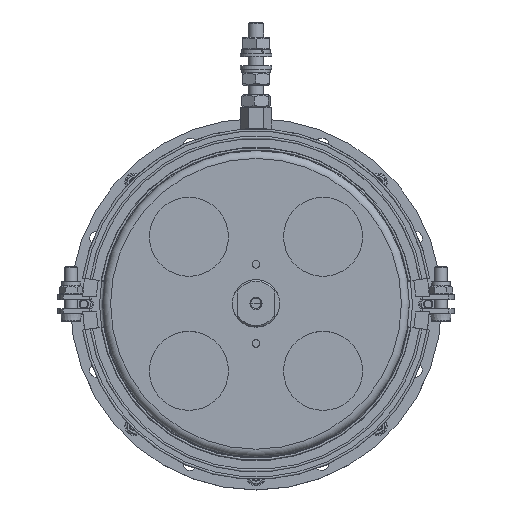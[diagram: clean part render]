
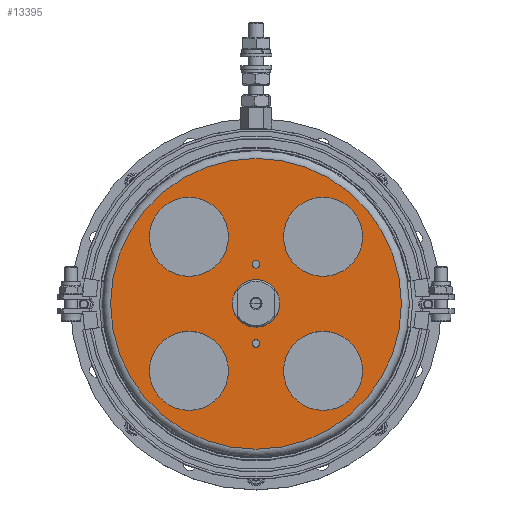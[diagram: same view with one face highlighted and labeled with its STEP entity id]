
A CAD part, top view. The second image highlights one B-rep face of the part: STEP entity #13395.
In plain terms, the highlighted planar face has unit normal (0, 0, 1).
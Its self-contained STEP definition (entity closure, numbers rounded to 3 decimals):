
#99=FACE_BOUND('',#2260,.T.);
#100=FACE_BOUND('',#2261,.T.);
#101=FACE_BOUND('',#2262,.T.);
#102=FACE_BOUND('',#2263,.T.);
#103=FACE_BOUND('',#2264,.T.);
#104=FACE_BOUND('',#2265,.T.);
#105=FACE_BOUND('',#2266,.T.);
#756=PLANE('',#14624);
#1450=FACE_OUTER_BOUND('',#2259,.T.);
#2259=EDGE_LOOP('',(#10448,#10449));
#2260=EDGE_LOOP('',(#10450,#10451));
#2261=EDGE_LOOP('',(#10452,#10453));
#2262=EDGE_LOOP('',(#10454,#10455));
#2263=EDGE_LOOP('',(#10456,#10457));
#2264=EDGE_LOOP('',(#10458,#10459));
#2265=EDGE_LOOP('',(#10460,#10461));
#2266=EDGE_LOOP('',(#10462));
#3096=CIRCLE('',#14604,92.);
#3097=CIRCLE('',#14605,92.);
#3098=CIRCLE('',#14607,25.);
#3099=CIRCLE('',#14608,25.);
#3100=CIRCLE('',#14610,25.);
#3101=CIRCLE('',#14611,25.);
#3102=CIRCLE('',#14613,25.);
#3103=CIRCLE('',#14614,25.);
#3104=CIRCLE('',#14616,25.);
#3105=CIRCLE('',#14617,25.);
#3106=CIRCLE('',#14619,2.459);
#3107=CIRCLE('',#14620,2.459);
#3108=CIRCLE('',#14622,2.459);
#3109=CIRCLE('',#14623,2.459);
#3110=CIRCLE('',#14625,13.);
#5758=VERTEX_POINT('',#21825);
#5759=VERTEX_POINT('',#21827);
#5760=VERTEX_POINT('',#21831);
#5761=VERTEX_POINT('',#21832);
#5762=VERTEX_POINT('',#21837);
#5763=VERTEX_POINT('',#21838);
#5764=VERTEX_POINT('',#21843);
#5765=VERTEX_POINT('',#21844);
#5766=VERTEX_POINT('',#21849);
#5767=VERTEX_POINT('',#21850);
#5768=VERTEX_POINT('',#21855);
#5769=VERTEX_POINT('',#21856);
#5770=VERTEX_POINT('',#21861);
#5771=VERTEX_POINT('',#21862);
#5772=VERTEX_POINT('',#21867);
#7409=EDGE_CURVE('',#5758,#5759,#3096,.T.);
#7410=EDGE_CURVE('',#5759,#5758,#3097,.T.);
#7411=EDGE_CURVE('',#5760,#5761,#3098,.T.);
#7412=EDGE_CURVE('',#5761,#5760,#3099,.T.);
#7414=EDGE_CURVE('',#5762,#5763,#3100,.T.);
#7415=EDGE_CURVE('',#5763,#5762,#3101,.T.);
#7417=EDGE_CURVE('',#5764,#5765,#3102,.T.);
#7418=EDGE_CURVE('',#5765,#5764,#3103,.T.);
#7420=EDGE_CURVE('',#5766,#5767,#3104,.T.);
#7421=EDGE_CURVE('',#5767,#5766,#3105,.T.);
#7423=EDGE_CURVE('',#5768,#5769,#3106,.T.);
#7424=EDGE_CURVE('',#5769,#5768,#3107,.T.);
#7426=EDGE_CURVE('',#5770,#5771,#3108,.T.);
#7427=EDGE_CURVE('',#5771,#5770,#3109,.T.);
#7429=EDGE_CURVE('',#5772,#5772,#3110,.T.);
#10448=ORIENTED_EDGE('',*,*,#7410,.F.);
#10449=ORIENTED_EDGE('',*,*,#7409,.F.);
#10450=ORIENTED_EDGE('',*,*,#7411,.T.);
#10451=ORIENTED_EDGE('',*,*,#7412,.T.);
#10452=ORIENTED_EDGE('',*,*,#7414,.T.);
#10453=ORIENTED_EDGE('',*,*,#7415,.T.);
#10454=ORIENTED_EDGE('',*,*,#7417,.T.);
#10455=ORIENTED_EDGE('',*,*,#7418,.T.);
#10456=ORIENTED_EDGE('',*,*,#7420,.T.);
#10457=ORIENTED_EDGE('',*,*,#7421,.T.);
#10458=ORIENTED_EDGE('',*,*,#7423,.T.);
#10459=ORIENTED_EDGE('',*,*,#7424,.T.);
#10460=ORIENTED_EDGE('',*,*,#7426,.T.);
#10461=ORIENTED_EDGE('',*,*,#7427,.T.);
#10462=ORIENTED_EDGE('',*,*,#7429,.F.);
#13395=ADVANCED_FACE('',(#1450,#99,#100,#101,#102,#103,#104,#105),#756,
 .T.);
#14604=AXIS2_PLACEMENT_3D('',#21828,#17456,#17457);
#14605=AXIS2_PLACEMENT_3D('',#21829,#17458,#17459);
#14607=AXIS2_PLACEMENT_3D('',#21833,#17462,#17463);
#14608=AXIS2_PLACEMENT_3D('',#21834,#17464,#17465);
#14610=AXIS2_PLACEMENT_3D('',#21839,#17469,#17470);
#14611=AXIS2_PLACEMENT_3D('',#21840,#17471,#17472);
#14613=AXIS2_PLACEMENT_3D('',#21845,#17476,#17477);
#14614=AXIS2_PLACEMENT_3D('',#21846,#17478,#17479);
#14616=AXIS2_PLACEMENT_3D('',#21851,#17483,#17484);
#14617=AXIS2_PLACEMENT_3D('',#21852,#17485,#17486);
#14619=AXIS2_PLACEMENT_3D('',#21857,#17490,#17491);
#14620=AXIS2_PLACEMENT_3D('',#21858,#17492,#17493);
#14622=AXIS2_PLACEMENT_3D('',#21863,#17497,#17498);
#14623=AXIS2_PLACEMENT_3D('',#21864,#17499,#17500);
#14624=AXIS2_PLACEMENT_3D('',#21866,#17502,#17503);
#14625=AXIS2_PLACEMENT_3D('',#21868,#17504,#17505);
#17456=DIRECTION('center_axis',(0.,0.,
-1.));
#17457=DIRECTION('ref_axis',(-1.,0.,0.));
#17458=DIRECTION('center_axis',(0.,0.,
-1.));
#17459=DIRECTION('ref_axis',(-1.,0.,0.));
#17462=DIRECTION('center_axis',(0.,0.,
-1.));
#17463=DIRECTION('ref_axis',(1.,0.,0.));
#17464=DIRECTION('center_axis',(0.,0.,
-1.));
#17465=DIRECTION('ref_axis',(1.,0.,0.));
#17469=DIRECTION('center_axis',(0.,0.,
-1.));
#17470=DIRECTION('ref_axis',(0.,1.,0.));
#17471=DIRECTION('center_axis',(0.,0.,
-1.));
#17472=DIRECTION('ref_axis',(0.,1.,0.));
#17476=DIRECTION('center_axis',(0.,0.,
-1.));
#17477=DIRECTION('ref_axis',(0.,-1.,0.));
#17478=DIRECTION('center_axis',(0.,0.,
-1.));
#17479=DIRECTION('ref_axis',(0.,-1.,0.));
#17483=DIRECTION('center_axis',(0.,0.,
-1.));
#17484=DIRECTION('ref_axis',(-1.,0.,0.));
#17485=DIRECTION('center_axis',(0.,0.,
-1.));
#17486=DIRECTION('ref_axis',(-1.,0.,0.));
#17490=DIRECTION('center_axis',(0.,0.,
-1.));
#17491=DIRECTION('ref_axis',(1.,0.,0.));
#17492=DIRECTION('center_axis',(0.,0.,
-1.));
#17493=DIRECTION('ref_axis',(1.,0.,0.));
#17497=DIRECTION('center_axis',(0.,0.,
-1.));
#17498=DIRECTION('ref_axis',(1.,0.,0.));
#17499=DIRECTION('center_axis',(0.,0.,
-1.));
#17500=DIRECTION('ref_axis',(1.,0.,0.));
#17502=DIRECTION('center_axis',(0.,0.,
1.));
#17503=DIRECTION('ref_axis',(0.,-1.,0.));
#17504=DIRECTION('center_axis',(0.,0.,
1.));
#17505=DIRECTION('ref_axis',(-1.,0.,0.));
#21825=CARTESIAN_POINT('',(0.,-92.,161.));
#21827=CARTESIAN_POINT('',(-92.,0.,161.));
#21828=CARTESIAN_POINT('Origin',(0.,0.,
161.));
#21829=CARTESIAN_POINT('Origin',(0.,0.,
161.));
#21831=CARTESIAN_POINT('',(-17.426,-42.426,161.));
#21832=CARTESIAN_POINT('',(-67.426,-42.426,161.));
#21833=CARTESIAN_POINT('Origin',(-42.426,-42.426,161.));
#21834=CARTESIAN_POINT('Origin',(-42.426,-42.426,161.));
#21837=CARTESIAN_POINT('',(42.426,-17.426,161.));
#21838=CARTESIAN_POINT('',(42.426,-67.426,161.));
#21839=CARTESIAN_POINT('Origin',(42.426,-42.426,161.));
#21840=CARTESIAN_POINT('Origin',(42.426,-42.426,161.));
#21843=CARTESIAN_POINT('',(-42.426,17.426,161.));
#21844=CARTESIAN_POINT('',(-42.426,67.426,161.));
#21845=CARTESIAN_POINT('Origin',(-42.426,42.426,161.));
#21846=CARTESIAN_POINT('Origin',(-42.426,42.426,161.));
#21849=CARTESIAN_POINT('',(17.426,42.426,161.));
#21850=CARTESIAN_POINT('',(67.426,42.426,161.));
#21851=CARTESIAN_POINT('Origin',(42.426,42.426,161.));
#21852=CARTESIAN_POINT('Origin',(42.426,42.426,161.));
#21855=CARTESIAN_POINT('',(2.459,25.,161.));
#21856=CARTESIAN_POINT('',(-2.458,25.,161.));
#21857=CARTESIAN_POINT('Origin',(0.,25.,161.));
#21858=CARTESIAN_POINT('Origin',(0.,25.,161.));
#21861=CARTESIAN_POINT('',(2.459,-25.,161.));
#21862=CARTESIAN_POINT('',(-2.458,-25.,161.));
#21863=CARTESIAN_POINT('Origin',(0.,-25.,161.));
#21864=CARTESIAN_POINT('Origin',(0.,-25.,161.));
#21866=CARTESIAN_POINT('Origin',(-46.,0.,
161.));
#21867=CARTESIAN_POINT('',(13.,0.,161.));
#21868=CARTESIAN_POINT('Origin',(0.,0.,
161.));
